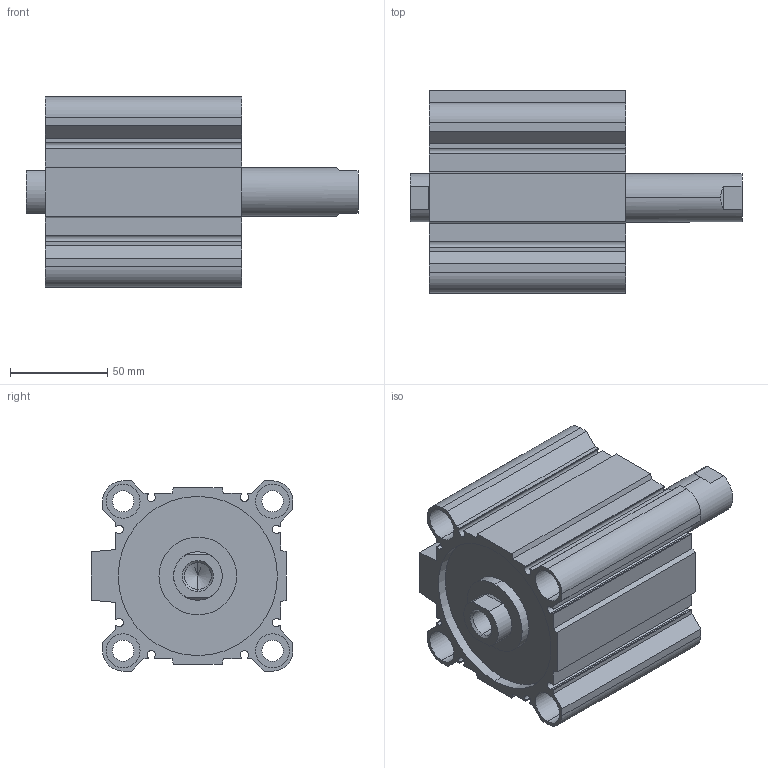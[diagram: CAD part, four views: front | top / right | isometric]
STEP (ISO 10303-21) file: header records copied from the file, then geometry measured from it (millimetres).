
FILE_DESCRIPTION (( 'STEP AP203' ), '1' );
FILE_NAME ('CCMB80-50F-P.STEP', '2020-08-05T11:51:49', ( '' ), ( '' ), 'SwSTEP 2.0', 'SolidWorks 2019', '' );
FILE_SCHEMA (( 'CONFIG_CONTROL_DESIGN' ));
Length unit declared in the file: millimetre
Products named in the file (1): CCMB80-50F-P
Bounding box: 171 x 104 x 98 mm (x, y, z)
Volume: 546211 mm3; surface area: 147683.3 mm2
Topology: 2 solids, 2 shells, 176 faces, 450 edges, 294 vertices
Faces by surface type: plane 90, cylinder 74, cone 12
Entity records: 5421 total; most frequent: DIRECTION 948, CARTESIAN_POINT 941, ORIENTED_EDGE 892, EDGE_CURVE 446, AXIS2_PLACEMENT_3D 333, VERTEX_POINT 294, LINE 282, VECTOR 282
